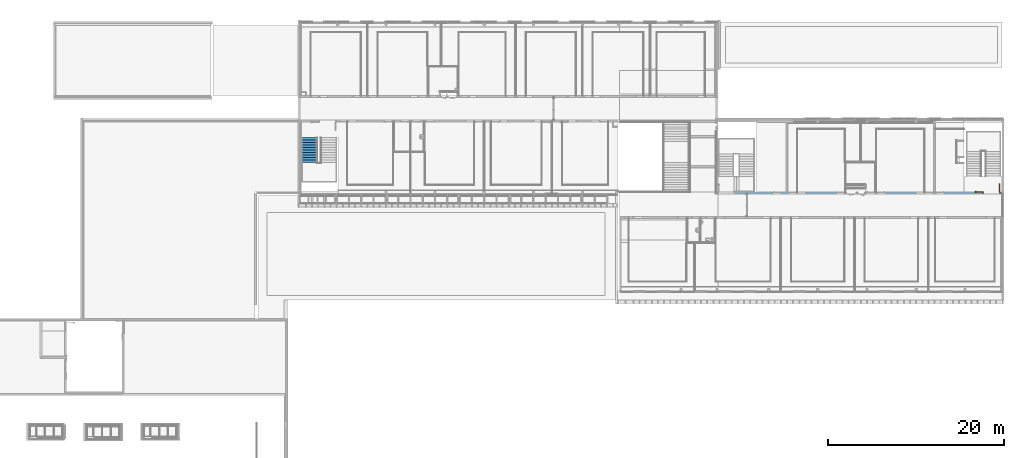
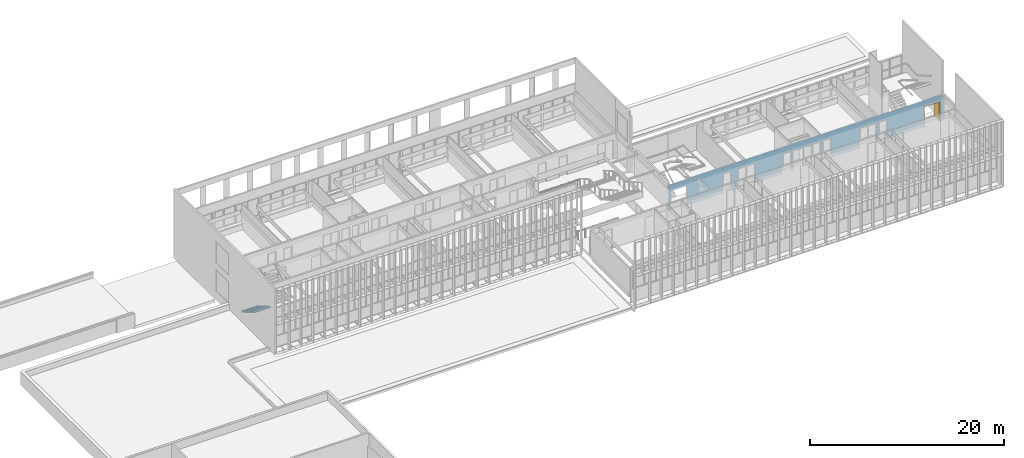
# One storey, part 99 of 106: 1 door, 1 stair flight, 13 openings, 1 element without a shape of its own, plus 1 element that does not belong to this part.
"""IFC2X3 building model written with IfcOpenShell, lengths in centimetres."""

from ifc_helpers import new_model, entity, si_unit, converted_unit, derived_unit, direction, frame, frame_2d, origin, place, context, subcontext, project, spatial, polyline, rectangle, extrude, clip, bounded_halfspace, faceted_brep, source, transform, mapped, material, material_list, layer, layer_set, layer_usage, type_object, type_shapes, element, fill, aggregate, save


model = new_model("IFC2X3")

# Units and contexts
model_context = context("Model", 3, precision=0.001, world=origin(), true_north=direction((6.12303176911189e-17, 1.0)))
body_context = subcontext(model_context, "Body", "Model", "MODEL_VIEW")
ifc_project = project(units=[si_unit("LENGTHUNIT", "METRE", prefix="CENTI"), si_unit("AREAUNIT", "SQUARE_METRE"), si_unit("VOLUMEUNIT", "CUBIC_METRE"), converted_unit("PLANEANGLEUNIT", "DEGREE", entity("IfcRatioMeasure", 0.0174532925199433), si_unit("PLANEANGLEUNIT", "RADIAN"), dimensions=[0, 0, 0, 0, 0, 0, 0]), si_unit("MASSUNIT", "GRAM", prefix="KILO"), derived_unit("MASSDENSITYUNIT", [(si_unit("MASSUNIT", "GRAM", prefix="KILO"), 1), (si_unit("LENGTHUNIT", "METRE"), -3)]), si_unit("TIMEUNIT", "SECOND"), si_unit("FREQUENCYUNIT", "HERTZ"), si_unit("THERMODYNAMICTEMPERATUREUNIT", "DEGREE_CELSIUS"), derived_unit("THERMALTRANSMITTANCEUNIT", [(si_unit("MASSUNIT", "GRAM", prefix="KILO"), 1), (si_unit("THERMODYNAMICTEMPERATUREUNIT", "KELVIN"), -1), (si_unit("TIMEUNIT", "SECOND"), -3)]), derived_unit("VOLUMETRICFLOWRATEUNIT", [(si_unit("LENGTHUNIT", "METRE"), 3), (si_unit("TIMEUNIT", "SECOND"), -1)]), si_unit("ELECTRICCURRENTUNIT", "AMPERE"), si_unit("ELECTRICVOLTAGEUNIT", "VOLT"), si_unit("POWERUNIT", "WATT"), si_unit("FORCEUNIT", "NEWTON", prefix="KILO"), si_unit("ILLUMINANCEUNIT", "LUX"), si_unit("LUMINOUSFLUXUNIT", "LUMEN"), si_unit("LUMINOUSINTENSITYUNIT", "CANDELA"), derived_unit("USERDEFINED", [(si_unit("MASSUNIT", "GRAM", prefix="KILO"), -1), (si_unit("LENGTHUNIT", "METRE"), -2), (si_unit("TIMEUNIT", "SECOND"), 3), (si_unit("LUMINOUSFLUXUNIT", "LUMEN"), 1)]), derived_unit("LINEARVELOCITYUNIT", [(si_unit("LENGTHUNIT", "METRE"), 1), (si_unit("TIMEUNIT", "SECOND"), -1)]), si_unit("PRESSUREUNIT", "PASCAL"), derived_unit("USERDEFINED", [(si_unit("LENGTHUNIT", "METRE"), -2), (si_unit("MASSUNIT", "GRAM", prefix="KILO"), 1), (si_unit("TIMEUNIT", "SECOND"), -2)])], contexts=[model_context])

# Site, building, storey
site_placement = place(None, frame((-2781.94577612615, 7442.24238424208, 0.0)))
site = spatial("IfcSite", under=ifc_project, at=site_placement, Name="Default", CompositionType="ELEMENT")
building_placement = place(site_placement, origin())
building = spatial("IfcBuilding", under=site, at=building_placement, CompositionType="ELEMENT")
storey_placement = place(building_placement, frame((0.0, 0.0, 422.0)))
storey = spatial("IfcBuildingStorey", under=building, at=storey_placement, Name="Toiture - Cuisine", CompositionType="ELEMENT", Elevation=421.999999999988)

# Wall, openings, door
ifc_material_1 = material(Name="01 - Maçonnerie")
ifc_layer = layer(ifc_material_1, 20.0)
ifc_layer_set = layer_set([ifc_layer], Name="Mur de base:04 - Structure - béton - 20cm")
ifc_layer_usage = layer_usage(ifc_layer_set, "AXIS2", "NEGATIVE", 10.0)
wall_type = type_object("IfcWallType", Name="Mur de base:04 - Structure - béton - 20cm", PredefinedType="STANDARD", material=ifc_layer_set)
wall_placement = place(building_placement, frame((-3667.99987968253, -1920.07903364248, 422.0)))
wall = element("IfcWallStandardCase", 1, at=wall_placement, inside=storey, type_object=wall_type, material=ifc_layer_usage, Name="Mur de base:04 - Structure - béton - 20cm", ObjectType="Mur de base:04 - Structure - béton - 20cm", context=body_context, shape_type="Clipping", body=[
    clip(clip(extrude(rectangle(XDim=3277.99999684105, YDim=19.9999999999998, at=frame_2d((1638.99999842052, 6.21724893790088e-14), x_axis=(-1.0, 0.0))), origin(), (0.0, 0.0, 1.0), 321.0), bounded_halfspace(frame((0.0, -10.0, 321.0), z_axis=(0.0, 0.0, -1.0), x_axis=(0.0, 1.0, 0.0)), True, frame((0.0, -10.0, 321.0)), polyline([(0.0, 0.0), (20.0, 0.0), (20.0, 20.0), (0.0, 20.0), (0.0, 0.0)]))), bounded_halfspace(frame((458.699996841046, -10.0, 321.0), z_axis=(0.0, 0.0, -1.0), x_axis=(0.0, 1.0, 0.0)), True, frame((458.699996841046, -10.0, 321.0)), polyline([(0.0, 0.0), (2797.3, 0.0), (2799.29999999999, 0.0), (2799.29999999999, 10.0), (2799.29999999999, 20.0), (2034.0, 20.0), (2018.0, 20.0), (1914.0, 20.0), (1912.0, 20.0), (1363.8, 20.0), (1353.8, 20.0), (1249.8, 20.0), (1239.8, 20.0), (1149.8, 20.0), (1139.8, 20.0), (1019.8, 20.0), (1009.8, 20.0), (466.0, 20.0), (464.0, 20.0), (0.0, 20.0), (0.0, 0.0)]))),
])
opening_1_placement = place(wall_placement, frame((2502.69999684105, -10.0, 0.0)))
element("IfcOpeningElement", 2, at=opening_1_placement, cuts=wall, Name="Int. Simple:PP simple (0.93m x 2.50m):1", ObjectType="Opening", context=body_context, shape_type="SweptSolid", body=[
    extrude(rectangle(XDim=248.500000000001, YDim=99.9999999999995, at=frame_2d((124.250000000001, 49.9999999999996), x_axis=(1.0, 0.0))), frame((0.0, 0.0, 0.0), z_axis=(0.0, 1.0, 0.0), x_axis=(0.0, 0.0, 1.0)), (0.0, 0.0, 1.0), 20.0),
])
opening_2_placement = place(wall_placement, frame((2372.69999684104, -10.0, 0.0)))
element("IfcOpeningElement", 3, at=opening_2_placement, cuts=wall, Name="Int. Simple:PV (0.93m x 2.50m):1", ObjectType="Opening", context=body_context, shape_type="SweptSolid", body=[
    extrude(rectangle(XDim=248.500000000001, YDim=99.9999999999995, at=frame_2d((124.250000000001, 49.9999999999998), x_axis=(1.0, 0.0))), frame((0.0, 0.0, 0.0), z_axis=(0.0, 1.0, 0.0), x_axis=(0.0, 0.0, 1.0)), (0.0, 0.0, 1.0), 20.0),
])
opening_3_placement = place(wall_placement, frame((1832.49999684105, -10.0, 0.0)))
element("IfcOpeningElement", 4, at=opening_3_placement, cuts=wall, Name="Int. Simple:PV (0.93m x 2.50m):1", ObjectType="Opening", context=body_context, shape_type="SweptSolid", body=[
    extrude(rectangle(XDim=248.500000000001, YDim=99.9999999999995, at=frame_2d((124.250000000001, 49.9999999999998), x_axis=(1.0, 0.0))), frame((0.0, 0.0, 0.0), z_axis=(0.0, 1.0, 0.0), x_axis=(0.0, 0.0, 1.0)), (0.0, 0.0, 1.0), 20.0),
])
opening_4_placement = place(wall_placement, frame((1708.49999684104, -10.0, 0.0)))
element("IfcOpeningElement", 5, at=opening_4_placement, cuts=wall, Name="Int. Simple:PP simple (0.93m x 2.50m):1", ObjectType="Opening", context=body_context, shape_type="SweptSolid", body=[
    extrude(rectangle(XDim=248.500000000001, YDim=99.9999999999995, at=frame_2d((124.250000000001, 49.9999999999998), x_axis=(1.0, 0.0))), frame((0.0, 0.0, 0.0), z_axis=(0.0, 1.0, 0.0), x_axis=(0.0, 0.0, 1.0)), (0.0, 0.0, 1.0), 20.0),
])
opening_5_placement = place(wall_placement, frame((1358.49999684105, -10.0, 0.0)))
element("IfcOpeningElement", 6, at=opening_5_placement, cuts=wall, Name="Int. Simple:PV (0.93m x 2.50m):1", ObjectType="Opening", context=body_context, shape_type="SweptSolid", body=[
    extrude(rectangle(XDim=248.500000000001, YDim=99.9999999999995, at=frame_2d((124.250000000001, 49.9999999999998), x_axis=(1.0, 0.0))), frame((0.0, 0.0, 0.0), z_axis=(0.0, 1.0, 0.0), x_axis=(0.0, 0.0, 1.0)), (0.0, 0.0, 1.0), 20.0),
])
opening_6_placement = place(wall_placement, frame((822.699996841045, -10.0, 0.0)))
element("IfcOpeningElement", 7, at=opening_6_placement, cuts=wall, Name="Int. Simple:PV (0.93m x 2.50m):1", ObjectType="Opening", context=body_context, shape_type="SweptSolid", body=[
    extrude(rectangle(XDim=248.500000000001, YDim=99.9999999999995, at=frame_2d((124.250000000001, 49.9999999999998), x_axis=(1.0, 0.0))), frame((0.0, 0.0, 0.0), z_axis=(0.0, 1.0, 0.0), x_axis=(0.0, 0.0, 1.0)), (0.0, 0.0, 1.0), 20.0),
])
opening_7_placement = place(wall_placement, frame((642.699996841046, -10.0, 0.0)))
element("IfcOpeningElement", 8, at=opening_7_placement, cuts=wall, Name="Int. Simple:PP simple (0.93m x 2.50m):1", ObjectType="Opening", context=body_context, shape_type="SweptSolid", body=[
    extrude(rectangle(XDim=248.500000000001, YDim=99.9999999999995, at=frame_2d((124.250000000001, 49.9999999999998), x_axis=(1.0, 0.0))), frame((0.0, 0.0, 0.0), z_axis=(0.0, 1.0, 0.0), x_axis=(0.0, 0.0, 1.0)), (0.0, 0.0, 1.0), 20.0),
])
opening_8_placement = place(wall_placement, frame((2272.69999684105, -10.0, 0.0)))
element("IfcOpeningElement", 9, at=opening_8_placement, cuts=wall, Name="châssis intérieur vitré:châssis intérieur vitré (h=270) R+1:1", ObjectType="Opening", context=body_context, shape_type="SweptSolid", body=[
    extrude(rectangle(XDim=250.0, YDim=99.9999999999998, at=frame_2d((125.0, 49.9999999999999), x_axis=(1.0, 0.0))), frame((0.0, 0.0, 0.0), z_axis=(0.0, 1.0, 0.0), x_axis=(0.0, 0.0, 1.0)), (0.0, 0.0, 1.0), 20.0),
])
opening_9_placement = place(wall_placement, frame((922.699996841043, -10.0, 0.0)))
element("IfcOpeningElement", 10, at=opening_9_placement, cuts=wall, Name="châssis intérieur vitré:châssis intérieur vitré (h=270) R+1:1", ObjectType="Opening", context=body_context, shape_type="SweptSolid", body=[
    extrude(rectangle(XDim=250.0, YDim=99.9999999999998, at=frame_2d((125.0, 49.9999999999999), x_axis=(1.0, 0.0))), frame((0.0, 0.0, 0.0), z_axis=(0.0, 1.0, 0.0), x_axis=(0.0, 0.0, 1.0)), (0.0, 0.0, 1.0), 20.0),
])
opening_10_placement = place(wall_placement, frame((1697.0, 10.0, 0.0)))
element("IfcOpeningElement", 11, at=opening_10_placement, cuts=wall, Name="Int. Simple:PP Placard (0.80m x 2.50m):1", ObjectType="Opening", context=body_context, shape_type="SweptSolid", body=[
    extrude(rectangle(XDim=248.500000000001, YDim=86.9999999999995, at=frame_2d((124.250000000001, 43.4999999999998), x_axis=(1.0, 0.0))), frame((0.0, 0.0, 0.0), z_axis=(0.0, -1.0, 0.0), x_axis=(0.0, 0.0, 1.0)), (0.0, 0.0, 1.0), 20.0),
])
opening_11_placement = place(wall_placement, frame((1597.0, 10.0, 0.0)))
element("IfcOpeningElement", 12, at=opening_11_placement, cuts=wall, Name="Int. Double:PP Placard (1.10m x 2.50m):1", ObjectType="Opening", context=body_context, shape_type="SweptSolid", body=[
    extrude(rectangle(XDim=248.500000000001, YDim=117.0, at=frame_2d((124.250000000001, 58.5000000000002), x_axis=(1.0, 0.0))), frame((0.0, 0.0, 0.0), z_axis=(0.0, -1.0, 0.0), x_axis=(0.0, 0.0, 1.0)), (0.0, 0.0, 1.0), 20.0),
])
opening_12_placement = place(wall_placement, frame((3035.69999684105, -10.0, 0.0)))
opening_12 = element("IfcOpeningElement", 13, at=opening_12_placement, cuts=wall, Name="Int. Double:PP (1.90m x 2.50m):1", ObjectType="Opening", context=body_context, shape_type="SweptSolid", body=[
    extrude(rectangle(XDim=253.500000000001, YDim=197.0, at=frame_2d((126.750000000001, 98.5000000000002), x_axis=(1.0, 0.0))), frame((0.0, 0.0, 0.0), z_axis=(0.0, 1.0, 0.0), x_axis=(0.0, 0.0, 1.0)), (0.0, 0.0, 1.0), 20.0),
])
opening_13_placement = place(wall_placement, frame((20.0, -10.0, 0.0)))
element("IfcOpeningElement", 14, at=opening_13_placement, cuts=wall, Name="Int. Double:PP (1.90m x 2.50m):1", ObjectType="Opening", context=body_context, shape_type="SweptSolid", body=[
    extrude(rectangle(XDim=253.500000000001, YDim=197.0, at=frame_2d((126.750000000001, 98.5), x_axis=(1.0, 0.0))), frame((0.0, 0.0, 0.0), z_axis=(0.0, 1.0, 0.0), x_axis=(0.0, 0.0, 1.0)), (0.0, 0.0, 1.0), 20.0),
])
ifc_material_2 = material(Name="Bois - Panneau de porte")
ifc_material_3 = material(Name="Finition Peinture - Blanc satiné")
ifc_material_4 = material(Name="Bois - Cadre de porte")
ifc_material_list_1 = material_list([ifc_material_2, ifc_material_3, ifc_material_4])
ifc_material_list_2 = material_list([ifc_material_2, ifc_material_3, ifc_material_4])
door_style = type_object("IfcDoorStyle", Name="PP (1.90m x 2.50m)", ConstructionType="NOTDEFINED", OperationType="DOUBLE_DOOR_SINGLE_SWING", ParameterTakesPrecedence=False, Sizeable=False, material=ifc_material_list_2)
shared_shape = source(origin(), body_context, "Body", "Brep", [
    faceted_brep([(7.50000000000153, -95.0, 250.0), (7.50000000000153, -95.0, 0.0), (7.50000000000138, 0.0, 0.0), (7.50000000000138, 0.0, 250.0), (3.50000000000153, -95.0, 250.0), (3.50000000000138, 0.0, 250.0), (3.50000000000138, 0.0, 0.0), (3.50000000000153, -95.0, 0.0)], [[[0, 1, 2, 3]], [[4, 5, 6, 7]], [[3, 5, 4, 0]], [[2, 6, 5, 3]], [[1, 7, 6, 2]], [[0, 4, 7, 1]]]),
    faceted_brep([(281.464723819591, 0.499999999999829, 86.6003983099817), (280.500000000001, 0.499999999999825, 87.0), (280.500000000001, 0.499999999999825, 108.0), (281.464723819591, 0.499999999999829, 108.399601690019), (282.500000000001, 0.499999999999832, 108.535898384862), (283.535276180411, 0.499999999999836, 108.399601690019), (284.500000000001, 0.499999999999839, 108.0), (284.500000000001, 0.499999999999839, 87.0), (283.535276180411, 0.499999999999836, 86.6003983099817), (282.500000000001, 0.499999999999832, 86.464101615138), (281.464723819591, 0.0, 108.399601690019), (280.500000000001, 0.0, 108.0), (280.500000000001, 0.0, 87.0), (281.464723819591, 0.0, 86.6003983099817), (282.500000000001, 0.0, 86.464101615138), (283.535276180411, 0.0, 86.6003983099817), (284.500000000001, 0.0, 87.0), (284.500000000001, 0.0, 108.0), (283.535276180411, 0.0, 108.399601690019), (282.500000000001, 0.0, 108.535898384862)], [[[0, 1, 2, 3, 4, 5, 6, 7, 8, 9]], [[10, 11, 12, 13, 14, 15, 16, 17, 18, 19]], [[16, 15, 8, 7]], [[8, 15, 14, 9]], [[14, 13, 0, 9]], [[13, 12, 1, 0]], [[2, 1, 12, 11]], [[11, 10, 3, 2]], [[3, 10, 19, 4]], [[19, 18, 5, 4]], [[18, 17, 6, 5]], [[7, 6, 17, 16]]]),
    faceted_brep([(281.464723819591, -4.0, 86.6003983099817), (280.500000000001, -4.0, 87.0), (280.500000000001, -4.0, 108.0), (281.464723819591, -4.0, 108.399601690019), (282.500000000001, -4.0, 108.535898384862), (283.535276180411, -4.0, 108.399601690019), (284.500000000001, -4.0, 108.0), (284.500000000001, -4.0, 87.0), (283.535276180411, -4.0, 86.6003983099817), (282.500000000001, -4.0, 86.464101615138), (281.464723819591, -4.50000000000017, 108.399601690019), (280.500000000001, -4.50000000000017, 108.0), (280.500000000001, -4.50000000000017, 87.0), (281.464723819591, -4.50000000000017, 86.6003983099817), (282.500000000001, -4.50000000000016, 86.464101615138), (283.535276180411, -4.50000000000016, 86.6003983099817), (284.500000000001, -4.50000000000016, 87.0), (284.500000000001, -4.50000000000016, 108.0), (283.535276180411, -4.50000000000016, 108.399601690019), (282.500000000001, -4.50000000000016, 108.535898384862)], [[[0, 1, 2, 3, 4, 5, 6, 7, 8, 9]], [[10, 11, 12, 13, 14, 15, 16, 17, 18, 19]], [[11, 10, 3, 2]], [[3, 10, 19, 4]], [[19, 18, 5, 4]], [[18, 17, 6, 5]], [[7, 6, 17, 16]], [[16, 15, 8, 7]], [[8, 15, 14, 9]], [[14, 13, 0, 9]], [[13, 12, 1, 0]], [[2, 1, 12, 11]]]),
    faceted_brep([(282.702529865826, 0.49999999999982, 100.778044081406), (282.297470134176, 0.499999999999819, 100.778044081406), (281.899999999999, 0.499999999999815, 100.699999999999), (281.9, 0.499999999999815, 99.3000000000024), (282.297470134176, 0.499999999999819, 99.2219559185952), (282.702529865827, 0.49999999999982, 99.221955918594), (283.100000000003, 0.499999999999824, 99.2999999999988), (283.100000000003, 0.499999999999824, 100.7), (283.100000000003, 3.26509507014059, 100.7), (282.702529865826, 3.10045754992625, 100.778044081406), (281.097641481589, 4.70534593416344, 100.778044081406), (280.929860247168, 4.30028620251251, 100.778044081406), (282.297470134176, 2.93267631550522, 100.778044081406), (281.899999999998, 2.76803879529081, 100.7), (281.899999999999, 2.76803879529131, 99.3000000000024), (282.297470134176, 2.93267631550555, 99.2219559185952), (280.929860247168, 4.3002862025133, 99.2219559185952), (281.097641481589, 4.70534593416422, 99.221955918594), (282.702529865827, 3.10045754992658, 99.221955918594), (283.100000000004, 3.26509507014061, 99.2999999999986), (281.262279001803, 5.10281606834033, 100.7), (280.765222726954, 3.90281606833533, 100.7), (280.765222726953, 3.9028160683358, 99.3000000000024), (281.262279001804, 5.10281606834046, 99.2999999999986), (272.498135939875, 5.1028160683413, 99.2999999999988), (272.498135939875, 4.70534593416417, 99.221955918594), (272.498135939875, 4.30028620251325, 99.2219559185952), (272.498135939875, 3.90281606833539, 99.3000000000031), (272.498135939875, 3.90281606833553, 100.7), (272.498135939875, 4.30028620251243, 100.778044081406), (272.498135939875, 4.70534593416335, 100.778044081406), (272.498135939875, 5.10281606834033, 100.699999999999), (277.26923027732, 5.10281606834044, 100.7), (276.713998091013, 4.50281606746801, 100.78786867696), (276.631679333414, 3.90281606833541, 100.7), (276.631679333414, 3.90281606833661, 99.3000000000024), (276.713998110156, 4.50281607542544, 99.2121313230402), (277.269229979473, 5.10281606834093, 99.2999999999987)], [[[0, 1, 2, 3, 4, 5, 6, 7]], [[8, 9, 0, 7]], [[9, 10, 11, 12, 1, 0]], [[12, 13, 2, 1]], [[3, 2, 13, 14]], [[14, 15, 4, 3]], [[15, 16, 17, 18, 5, 4]], [[18, 19, 6, 5]], [[7, 6, 19, 8]], [[20, 10, 9, 8]], [[11, 21, 13, 12]], [[14, 13, 21, 22]], [[22, 16, 15, 14]], [[17, 23, 19, 18]], [[8, 19, 23, 20]], [[24, 25, 26, 27, 28, 29, 30, 31]], [[32, 30, 33]], [[31, 30, 32]], [[10, 20, 32]], [[33, 34, 11]], [[21, 11, 34]], [[34, 29, 28]], [[30, 29, 33]], [[29, 34, 33]], [[10, 32, 33]], [[10, 33, 11]], [[22, 21, 34, 28, 27, 35]], [[35, 26, 36]], [[37, 36, 25]], [[22, 35, 16]], [[35, 27, 26]], [[24, 37, 25]], [[23, 17, 37]], [[37, 17, 36]], [[17, 16, 36]], [[16, 35, 36]], [[25, 36, 26]], [[20, 23, 37, 24, 31, 32]]]),
    faceted_brep([(282.702529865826, -4.50000000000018, 100.778044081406), (283.100000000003, -4.50000000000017, 100.7), (283.100000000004, -4.50000000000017, 99.2999999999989), (282.702529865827, -4.50000000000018, 99.221955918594), (282.297470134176, -4.50000000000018, 99.2219559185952), (281.899999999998, -4.50000000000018, 99.3000000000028), (281.899999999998, -4.50000000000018, 100.7), (282.297470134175, -4.50000000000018, 100.778044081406), (281.899999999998, -6.74852045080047, 99.3000000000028), (281.899999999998, -6.74852045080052, 100.7), (282.297470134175, -6.91315797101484, 100.778044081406), (280.916109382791, -8.29451872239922, 100.778044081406), (281.083890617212, -8.69957845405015, 100.778044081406), (282.702529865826, -7.08093920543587, 100.778044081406), (283.100000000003, -7.24557672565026, 100.7), (283.100000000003, -7.24557672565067, 99.2999999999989), (282.702529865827, -7.08093920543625, 99.221955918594), (281.083890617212, -8.69957845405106, 99.221955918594), (280.916109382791, -8.29451872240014, 99.2219559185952), (282.297470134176, -6.91315797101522, 99.2219559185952), (280.751471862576, -7.89704858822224, 99.3000000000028), (280.751471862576, -7.89704858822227, 100.7), (281.248528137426, -9.09704858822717, 100.7), (281.248528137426, -9.09704858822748, 99.2999999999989), (272.495421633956, -7.89704858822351, 99.3000000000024), (272.495421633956, -8.29451872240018, 99.2219559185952), (272.495421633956, -8.69957845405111, 99.221955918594), (272.495421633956, -9.09704858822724, 99.2999999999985), (272.495421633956, -9.09704858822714, 100.7), (272.495421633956, -8.69957845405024, 100.778044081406), (272.495421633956, -8.29451872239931, 100.778044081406), (272.495421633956, -7.89704858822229, 100.7), (276.623447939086, -7.89704858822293, 99.3000000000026), (276.623446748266, -7.89704858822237, 100.7), (276.705765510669, -8.49704858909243, 100.78786867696), (277.25547942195, -9.09704858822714, 100.7), (277.255479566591, -9.09704858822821, 99.2999999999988), (276.705765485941, -8.49704858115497, 99.2121313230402)], [[[0, 1, 2, 3, 4, 5, 6, 7]], [[6, 5, 8, 9]], [[9, 10, 7, 6]], [[10, 11, 12, 13, 0, 7]], [[13, 14, 1, 0]], [[2, 1, 14, 15]], [[15, 16, 3, 2]], [[16, 17, 18, 19, 4, 3]], [[19, 8, 5, 4]], [[9, 8, 20, 21]], [[21, 11, 10, 9]], [[12, 22, 14, 13]], [[15, 14, 22, 23]], [[23, 17, 16, 15]], [[18, 20, 8, 19]], [[24, 25, 26, 27, 28, 29, 30, 31]], [[21, 20, 32, 24, 31, 33]], [[33, 30, 34]], [[35, 34, 29]], [[21, 33, 11]], [[33, 31, 30]], [[28, 35, 29]], [[22, 12, 35]], [[35, 12, 34]], [[12, 11, 34]], [[11, 33, 34]], [[29, 34, 30]], [[22, 35, 28, 27, 36, 23]], [[36, 26, 37]], [[27, 26, 36]], [[17, 23, 36]], [[37, 32, 18]], [[20, 18, 32]], [[32, 25, 24]], [[26, 25, 37]], [[25, 32, 37]], [[17, 36, 37]], [[17, 37, 18]]]),
    faceted_brep([(288.500000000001, -4.0, 250.0), (193.500000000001, -4.0, 250.0), (193.500000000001, -4.0, 0.0), (288.500000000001, -4.0, 0.0), (288.500000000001, 0.0, 250.0), (288.500000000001, 0.0, 0.0), (193.500000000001, 0.0, 0.0), (193.500000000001, 0.0, 250.0)], [[[0, 1, 2, 3]], [[4, 5, 6, 7]], [[1, 0, 4, 7]], [[2, 1, 7, 6]], [[3, 2, 6, 5]], [[0, 3, 5, 4]]]),
    faceted_brep([(0.0, 0.0, 0.0), (0.0, 20.0, 0.0), (5.0, 20.0, 0.0), (5.0, 4.0, 0.0), (3.5000000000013, 4.0, 0.0), (3.5000000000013, 0.0, 0.0), (0.0, 0.0, 253.500000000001), (0.0, 20.0, 253.500000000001), (197.0, 20.0, 253.500000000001), (197.0, 20.0, 0.0), (192.0, 20.0, 0.0), (192.0, 20.0, 248.5), (5.0, 20.0, 248.5), (5.0, 4.0, 248.5), (192.0, 4.0, 248.5), (192.0, 4.0, 0.0), (193.499999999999, 4.0, 0.0), (193.499999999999, 4.0, 250.0), (3.50000000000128, 4.0, 250.0), (3.50000000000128, 0.0, 250.0), (193.499999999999, 0.0, 250.0), (193.499999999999, 0.0, 0.0), (197.0, 0.0, 0.0), (197.0, 0.0, 253.500000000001)], [[[0, 1, 2, 3, 4, 5]], [[1, 0, 6, 7]], [[2, 1, 7, 8, 9, 10, 11, 12]], [[3, 2, 12, 13]], [[4, 3, 13, 14, 15, 16, 17, 18]], [[5, 4, 18, 19]], [[0, 5, 19, 20, 21, 22, 23, 6]], [[8, 23, 22, 9]], [[22, 21, 16, 15, 10, 9]], [[14, 11, 10, 15]], [[20, 17, 16, 21]], [[7, 6, 23, 8]], [[13, 12, 11, 14]], [[19, 18, 17, 20]]]),
    faceted_brep([(1.49999999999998, 20.0, 0.0), (-1.50000000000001, 20.0, 0.0), (-1.50000000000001, 20.5000000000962, 0.0), (1.49999999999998, 20.5000000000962, 0.0), (1.49999999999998, 20.0, 252.0), (195.5, 20.0, 252.0), (195.5, 20.0, 0.0), (198.5, 20.0, 0.0), (198.5, 20.0, 255.0), (-1.50000000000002, 20.0, 255.0), (-1.50000000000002, 20.5000000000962, 255.0), (198.5, 20.5000000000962, 255.0), (198.5, 20.5000000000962, 0.0), (195.5, 20.5000000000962, 0.0), (195.5, 20.5000000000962, 252.0), (1.49999999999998, 20.5000000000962, 252.0)], [[[0, 1, 2, 3]], [[1, 0, 4, 5, 6, 7, 8, 9]], [[2, 1, 9, 10]], [[3, 2, 10, 11, 12, 13, 14, 15]], [[0, 3, 15, 4]], [[5, 14, 13, 6]], [[6, 13, 12, 7]], [[11, 8, 7, 12]], [[10, 9, 8, 11]], [[4, 15, 14, 5]]]),
    faceted_brep([(-1.50000000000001, -0.500000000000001, 0.0), (1.49999999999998, -0.500000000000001, 0.0), (1.49999999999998, -0.500000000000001, 252.0), (195.5, -0.500000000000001, 252.0), (195.5, -0.500000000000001, 0.0), (198.5, -0.500000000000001, 0.0), (198.5, -0.500000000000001, 255.0), (-1.50000000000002, -0.500000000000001, 255.0), (-1.50000000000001, 0.0, 0.0), (-1.50000000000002, 0.0, 255.0), (1.49999999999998, 0.0, 0.0), (198.5, 0.0, 255.0), (198.5, 0.0, 0.0), (195.5, 0.0, 0.0), (195.5, 0.0, 252.0), (1.49999999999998, 0.0, 252.0)], [[[0, 1, 2, 3, 4, 5, 6, 7]], [[8, 0, 7, 9]], [[10, 8, 9, 11, 12, 13, 14, 15]], [[1, 10, 15, 2]], [[3, 14, 13, 4]], [[11, 6, 5, 12]], [[9, 7, 6, 11]], [[2, 15, 14, 3]], [[4, 13, 12, 5]], [[1, 0, 8, 10]]]),
])
type_shapes(door_style, [shared_shape])
door_placement = place(opening_12_placement, frame((197.0, 20.0, 0.0), z_axis=(0.0, 0.0, 1.0), x_axis=(-1.0, 0.0, 0.0)))
door = element("IfcDoor", 15, at=door_placement, inside=storey, type_object=door_style, material=ifc_material_list_1, Name="Int. Double:PP (1.90m x 2.50m)", ObjectType="Int. Double:PP (1.90m x 2.50m)", OverallHeight=253.500000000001, OverallWidth=197.0, context=body_context, shape_type="MappedRepresentation", body=[
    mapped(shared_shape, transform((0.0, 0.0, 0.0), scale=1.0)),
])
fill(opening_12, door)

# Stair, stair flight
stair_placement = place(building_placement, frame((0.0, 0.0, 422.0)))
stair = element("IfcStair", 16, at=stair_placement, inside=storey, Name="Escalier coulé sur place:Escalier", ObjectType="Escalier coulé sur place:Monobloc", ShapeType="NOTDEFINED")
ifc_material_5 = material(Name="Maçonnerie - Béton")
stair_flight_placement = place(stair_placement, frame((-8394.19987766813, -1570.0, 0.0)))
stair_flight = element("IfcStairFlight", 17, at=stair_flight_placement, material=ifc_material_5, Name="Escalier coulé sur place:Escalier:549512 Run 1", ObjectType="Volée monobloc:Profondeur de structure 80 mm", NumberOfRiser=11, NumberOfTreads=10, RiserHeight=0.549931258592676, TreadLength=0.918635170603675, context=body_context, shape_type="Brep", body=[
    faceted_brep([(190.0, 252.0, 16.7619047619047), (190.0, 280.0, 16.7619047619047), (0.0, 280.0, 16.7619047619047), (0.0, 252.0, 16.7619047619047), (190.0, 252.0, 7.43797701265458), (190.0, 264.424802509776, 0.0), (190.0, 280.0, 0.0), (0.0, 280.0, 0.0), (0.0, 264.424802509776, 0.0), (0.0, 252.0, 7.43797701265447), (190.0, 224.0, 33.5238095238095), (190.0, 252.0, 33.5238095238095), (0.0, 252.0, 33.5238095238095), (0.0, 224.0, 33.5238095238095), (190.0, 224.0, 24.1998817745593), (0.0, 224.0, 24.1998817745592), (190.0, 196.0, 50.2857142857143), (190.0, 224.0, 50.2857142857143), (0.0, 224.0, 50.2857142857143), (0.0, 196.0, 50.2857142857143), (190.0, 196.0, 40.9617865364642), (0.0, 196.0, 40.961786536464), (190.0, 168.0, 67.0476190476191), (190.0, 196.0, 67.0476190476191), (0.0, 196.0, 67.0476190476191), (0.0, 168.0, 67.0476190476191), (190.0, 168.0, 57.7236912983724), (0.0, 168.0, 57.7236912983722), (190.0, 140.0, 83.8095238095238), (190.0, 168.0, 83.8095238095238), (0.0, 168.0, 83.8095238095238), (0.0, 140.0, 83.8095238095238), (190.0, 140.0, 74.4855960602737), (0.0, 140.0, 74.4855960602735), (190.0, 112.0, 100.571428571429), (190.0, 140.0, 100.571428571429), (0.0, 140.0, 100.571428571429), (0.0, 112.0, 100.571428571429), (190.0, 112.0, 91.2475008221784), (0.0, 112.0, 91.2475008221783), (190.0, 84.0, 117.333333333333), (190.0, 112.0, 117.333333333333), (0.0, 112.0, 117.333333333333), (0.0, 84.0, 117.333333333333), (190.0, 84.0, 108.009405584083), (0.0, 84.0, 108.009405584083), (190.0, 56.0, 134.095238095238), (190.0, 84.0, 134.095238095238), (0.0, 84.0, 134.095238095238), (0.0, 56.0, 134.095238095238), (190.0, 56.0, 124.771310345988), (0.0, 56.0, 124.771310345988), (190.0, 28.0, 150.857142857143), (190.0, 56.0, 150.857142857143), (0.0, 56.0, 150.857142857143), (0.0, 28.0, 150.857142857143), (190.0, 28.0, 141.533215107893), (0.0, 28.0, 141.533215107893), (190.0, 0.0, 167.619047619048), (190.0, 28.0, 167.619047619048), (0.0, 28.0, 167.619047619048), (0.0, 0.0, 167.619047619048), (190.0, 0.0, 164.380952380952), (190.0, 0.0, 158.295119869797), (0.0, 0.0, 158.295119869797)], [[[0, 1, 2, 3]], [[1, 0, 4, 5, 6]], [[2, 1, 6, 7]], [[3, 2, 7, 8, 9]], [[10, 11, 12, 13]], [[11, 10, 14, 4, 0]], [[0, 3, 12, 11]], [[13, 12, 3, 9, 15]], [[16, 17, 18, 19]], [[17, 16, 20, 14, 10]], [[10, 13, 18, 17]], [[19, 18, 13, 15, 21]], [[22, 23, 24, 25]], [[23, 22, 26, 20, 16]], [[16, 19, 24, 23]], [[25, 24, 19, 21, 27]], [[28, 29, 30, 31]], [[29, 28, 32, 26, 22]], [[22, 25, 30, 29]], [[31, 30, 25, 27, 33]], [[34, 35, 36, 37]], [[35, 34, 38, 32, 28]], [[28, 31, 36, 35]], [[37, 36, 31, 33, 39]], [[40, 41, 42, 43]], [[41, 40, 44, 38, 34]], [[34, 37, 42, 41]], [[43, 42, 37, 39, 45]], [[46, 47, 48, 49]], [[47, 46, 50, 44, 40]], [[40, 43, 48, 47]], [[49, 48, 43, 45, 51]], [[52, 53, 54, 55]], [[53, 52, 56, 50, 46]], [[46, 49, 54, 53]], [[55, 54, 49, 51, 57]], [[58, 59, 60, 61]], [[59, 58, 62, 63, 56, 52]], [[52, 55, 60, 59]], [[61, 60, 55, 57, 64]], [[58, 61, 64, 63, 62]], [[7, 6, 5, 8]], [[8, 5, 4, 14, 20, 26, 32, 38, 44, 50, 56, 63, 64, 57, 51, 45, 39, 33, 27, 21, 15, 9]]]),
])
aggregate(stair, [stair_flight])

save(model, "model.ifc")
